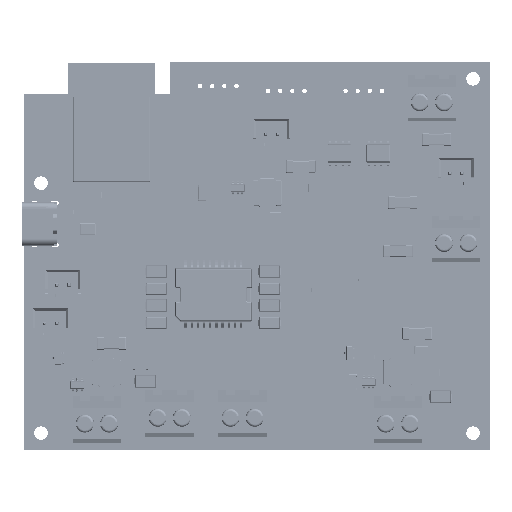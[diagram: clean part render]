
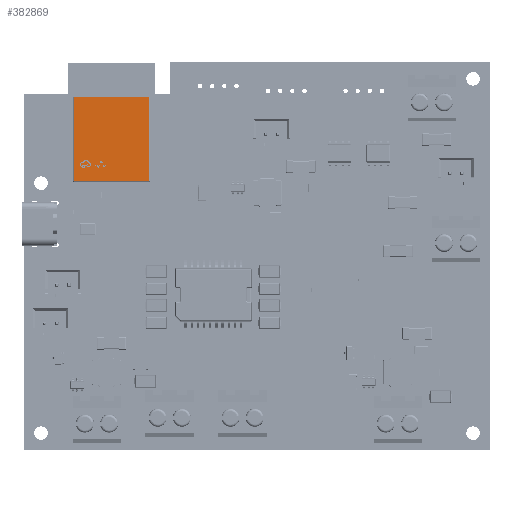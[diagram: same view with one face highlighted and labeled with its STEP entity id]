
A CAD part, top view. The second image highlights one B-rep face of the part: STEP entity #382869.
In plain terms, the highlighted planar face has unit normal (0, 0, 1).
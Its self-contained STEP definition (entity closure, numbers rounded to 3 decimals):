
#361735=CARTESIAN_POINT('NONE',(0.,-11.5,3.1));
#363360=CARTESIAN_POINT('NONE',(0.,0.,3.1));
#363595 = VERTEX_POINT('NONE',#400622) ;
#364138=CARTESIAN_POINT('NONE',(7.7,0.,3.1));
#366449 = VERTEX_POINT('NONE',#369916) ;
#368255 = VERTEX_POINT('NONE',#385929) ;
#368662=DIRECTION('NONE',(1.,0.,0.));
#369622 = EDGE_CURVE('NONE',#393188,#363595,#399361,.T.) ;
#369907 = EDGE_CURVE('NONE',#363595,#368255,#383232,.T.) ;
#369916=CARTESIAN_POINT('NONE',(-7.7,-11.5,3.1));
#370430=AXIS2_PLACEMENT_3D('NONE',#363360,#386291,#392653);
#372755 = EDGE_CURVE('NONE',#368255,#366449,#394477,.T.) ;
#377149 = ORIENTED_EDGE('NONE',*,*,#387225,.T.) ;
#378347=CARTESIAN_POINT('NONE',(-7.7,0.,3.1));
#378646 = PLANE('NONE',#370430) ;
#379082=VECTOR('NONE',#399145,1000.);
#379953 = ORIENTED_EDGE('NONE',*,*,#369907,.T.) ;
#379999=DIRECTION('NONE',(-1.,0.,0.));
#380002=CARTESIAN_POINT('NONE',(7.7,-11.5,3.1));
#382869 = ADVANCED_FACE('NONE',(#384820),#378646,.F.) ;
#383232 = LINE('NONE',#396160,#398091) ;
#384820 = FACE_OUTER_BOUND('NONE',#389589,.T.) ;
#385929=CARTESIAN_POINT('NONE',(-7.7,5.7,3.1));
#386291=DIRECTION('NONE',(0.,0.,-1.));
#386744 = ORIENTED_EDGE('NONE',*,*,#369622,.T.) ;
#387225 = EDGE_CURVE('NONE',#366449,#393188,#394401,.T.) ;
#389589 = EDGE_LOOP('NONE',(#395469,#377149,#386744,#379953)) ;
#391277=DIRECTION('NONE',(0.,-1.,0.));
#392653=DIRECTION('NONE',(-1.,0.,0.));
#393188 = VERTEX_POINT('NONE',#380002) ;
#394401 = LINE('NONE',#361735,#400546) ;
#394477 = LINE('NONE',#378347,#398287) ;
#395469 = ORIENTED_EDGE('NONE',*,*,#372755,.T.) ;
#396160=CARTESIAN_POINT('NONE',(0.,5.7,3.1));
#398091=VECTOR('NONE',#379999,1000.);
#398287=VECTOR('NONE',#391277,1000.);
#399145=DIRECTION('NONE',(0.,1.,0.));
#399361 = LINE('NONE',#364138,#379082) ;
#400546=VECTOR('NONE',#368662,1000.);
#400622=CARTESIAN_POINT('NONE',(7.7,5.7,3.1));
